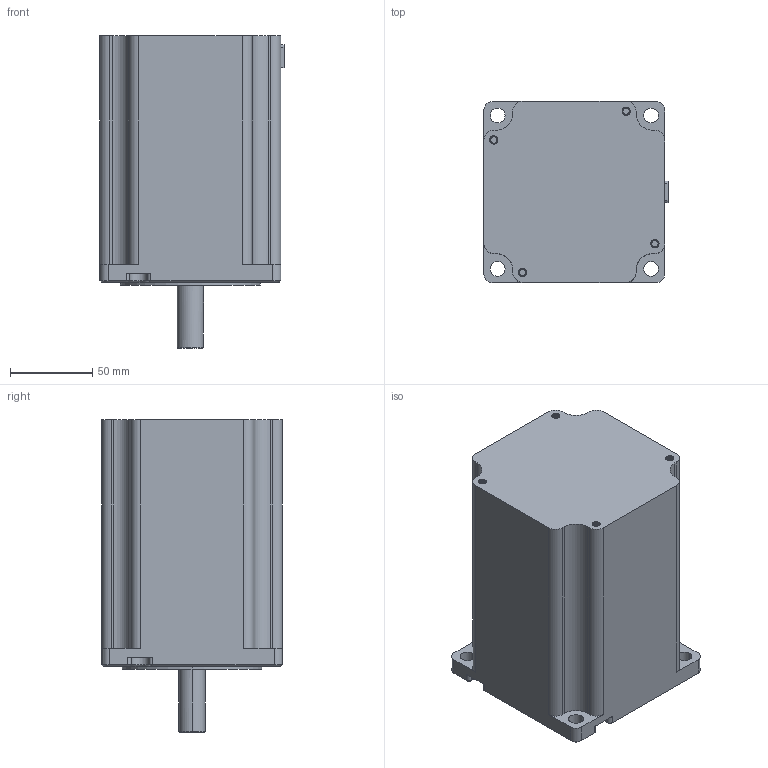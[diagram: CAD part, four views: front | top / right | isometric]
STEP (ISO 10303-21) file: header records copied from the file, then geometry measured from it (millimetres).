
FILE_DESCRIPTION((''),'2;1');
FILE_NAME('QL110HB150-06A','2022-03-24T10:37:44',('qingl'),(''),'CREO PARAMETRIC BY PTC INC, 2019224','CREO PARAMETRIC BY PTC INC, 2019224','');
FILE_SCHEMA(('CONFIG_CONTROL_DESIGN'));
Length unit declared in the file: millimetre
Products named in the file (1): QL110HB150-06A
Bounding box: 112 x 110 x 190 mm (x, y, z)
Volume: 1650738.9 mm3; surface area: 90030.8 mm2
Topology: 1 solids, 1 shells, 213 faces, 555 edges, 357 vertices
Faces by surface type: cylinder 118, plane 70, cone 16, bspline 8, torus 1
Entity records: 8981 total; most frequent: CARTESIAN_POINT 3880, ORIENTED_EDGE 1110, DIRECTION 966, EDGE_CURVE 555, VERTEX_POINT 357, AXIS2_PLACEMENT_3D 348, VECTOR 270, LINE 270
